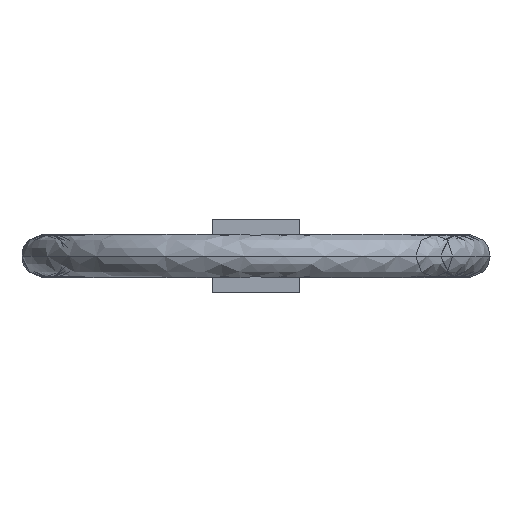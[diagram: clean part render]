
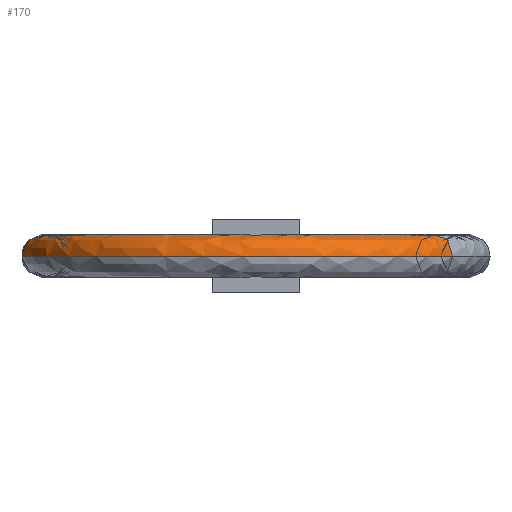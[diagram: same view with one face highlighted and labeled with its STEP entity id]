
A CAD part, left-side view. The second image highlights one B-rep face of the part: STEP entity #170.
In plain terms, the highlighted free-form (B-spline) face has degree [3, 3] with [7, 4] control points.
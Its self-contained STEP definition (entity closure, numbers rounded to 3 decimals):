
#1 = EDGE_CURVE ( 'NONE', #42, #236, #189, .T. ) ;
#14 = ORIENTED_EDGE ( 'NONE', *, *, #1, .T. ) ;
#42 = VERTEX_POINT ( 'NONE', #1085 ) ;
#52 = EDGE_CURVE ( 'NONE', #42, #113, #1239, .T. ) ;
#78 = ORIENTED_EDGE ( 'NONE', *, *, #52, .F. ) ;
#113 = VERTEX_POINT ( 'NONE', #1005 ) ;
#132 = EDGE_CURVE ( 'NONE', #405, #113, #1174, .T. ) ;
#156 = ORIENTED_EDGE ( 'NONE', *, *, #132, .T. ) ;
#170 = ADVANCED_FACE ( 'NONE', ( #766 ), #767, .F. ) ;
#189 = CIRCLE ( 'NONE', #190, 0.75 ) ;
#190 = AXIS2_PLACEMENT_3D ( 'NONE', #191, #192, #193 ) ;
#191 = CARTESIAN_POINT ( 'NONE',  ( -438.06, 6.086, 0. ) ) ;
#192 = DIRECTION ( 'NONE',  ( -0.839, 0.543, 0. ) ) ;
#193 = DIRECTION ( 'NONE',  ( -0.543, -0.839, 0. ) ) ;
#236 = VERTEX_POINT ( 'NONE', #921 ) ;
#405 = VERTEX_POINT ( 'NONE', #1109 ) ;
#490 = EDGE_LOOP ( 'NONE', ( #652, #156, #78, #14 ) ) ;
#542 = CIRCLE ( 'NONE', #543, 8. ) ;
#543 = AXIS2_PLACEMENT_3D ( 'NONE', #544, #545, #546 ) ;
#544 = CARTESIAN_POINT ( 'NONE',  ( -442., 0., 0. ) ) ;
#545 = DIRECTION ( 'NONE',  ( 0., 0., -1. ) ) ;
#546 = DIRECTION ( 'NONE',  ( -0.543, -0.839, 0. ) ) ;
#652 = ORIENTED_EDGE ( 'NONE', *, *, #1424, .F. ) ;
#766 = FACE_OUTER_BOUND ( 'NONE', #490, .T. ) ;
#767 =( BOUNDED_SURFACE ( )  B_SPLINE_SURFACE ( 3, 3, ( 
 ( #768, #769, #770, #771 ),
 ( #773, #774, #775, #776 ),
 ( #777, #778, #779, #780 ),
 ( #781, #782, #783, #784 ),
 ( #785, #786, #787, #788 ),
 ( #792, #793, #794, #795 ),
 ( #796, #797, #798, #799 ) ),
 .UNSPECIFIED., .F., .F., .T. ) 
 B_SPLINE_SURFACE_WITH_KNOTS ( ( 4, 3, 4 ),
 ( 4, 4 ),
 ( 0.021, 0.5, 0.979 ),
 ( 0., 1. ),
 .UNSPECIFIED. ) 
 GEOMETRIC_REPRESENTATION_ITEM ( )  RATIONAL_B_SPLINE_SURFACE ( (
 ( 0.974, 0.325, 0.325, 0.974),
 ( 0.79, 0.263, 0.263, 0.79),
 ( 0.799, 0.266, 0.266, 0.799),
 ( 1., 0.333, 0.333, 1.),
 ( 0.799, 0.266, 0.266, 0.799),
 ( 0.79, 0.263, 0.263, 0.79),
 ( 0.974, 0.325, 0.325, 0.974) ) ) 
 REPRESENTATION_ITEM ( '' )  SURFACE ( )  );
#768 = CARTESIAN_POINT ( 'NONE',  ( -437.652, 6.715, 0. ) ) ;
#769 = CARTESIAN_POINT ( 'NONE',  ( -451.083, 15.411, 0. ) ) ;
#770 = CARTESIAN_POINT ( 'NONE',  ( -459.779, 1.98, 0. ) ) ;
#771 = CARTESIAN_POINT ( 'NONE',  ( -446.348, -6.715, 0. ) ) ;
#773 = CARTESIAN_POINT ( 'NONE',  ( -437.652, 6.715, 0.442 ) ) ;
#774 = CARTESIAN_POINT ( 'NONE',  ( -451.083, 15.411, 0.442 ) ) ;
#775 = CARTESIAN_POINT ( 'NONE',  ( -459.779, 1.98, 0.442 ) ) ;
#776 = CARTESIAN_POINT ( 'NONE',  ( -446.348, -6.715, 0.442 ) ) ;
#777 = CARTESIAN_POINT ( 'NONE',  ( -437.822, 6.453, 0.75 ) ) ;
#778 = CARTESIAN_POINT ( 'NONE',  ( -450.728, 14.808, 0.75 ) ) ;
#779 = CARTESIAN_POINT ( 'NONE',  ( -459.083, 1.903, 0.75 ) ) ;
#780 = CARTESIAN_POINT ( 'NONE',  ( -446.178, -6.453, 0.75 ) ) ;
#781 = CARTESIAN_POINT ( 'NONE',  ( -438.06, 6.086, 0.75 ) ) ;
#782 = CARTESIAN_POINT ( 'NONE',  ( -450.232, 13.966, 0.75 ) ) ;
#783 = CARTESIAN_POINT ( 'NONE',  ( -458.112, 1.794, 0.75 ) ) ;
#784 = CARTESIAN_POINT ( 'NONE',  ( -445.94, -6.086, 0.75 ) ) ;
#785 = CARTESIAN_POINT ( 'NONE',  ( -438.297, 5.719, 0.75 ) ) ;
#786 = CARTESIAN_POINT ( 'NONE',  ( -449.735, 13.124, 0.75 ) ) ;
#787 = CARTESIAN_POINT ( 'NONE',  ( -457.141, 1.686, 0.75 ) ) ;
#788 = CARTESIAN_POINT ( 'NONE',  ( -445.703, -5.719, 0.75 ) ) ;
#792 = CARTESIAN_POINT ( 'NONE',  ( -438.467, 5.456, 0.442 ) ) ;
#793 = CARTESIAN_POINT ( 'NONE',  ( -449.38, 12.521, 0.442 ) ) ;
#794 = CARTESIAN_POINT ( 'NONE',  ( -456.445, 1.609, 0.442 ) ) ;
#795 = CARTESIAN_POINT ( 'NONE',  ( -445.533, -5.456, 0.442 ) ) ;
#796 = CARTESIAN_POINT ( 'NONE',  ( -438.467, 5.456, 0. ) ) ;
#797 = CARTESIAN_POINT ( 'NONE',  ( -449.38, 12.521, 0. ) ) ;
#798 = CARTESIAN_POINT ( 'NONE',  ( -456.445, 1.609, 0. ) ) ;
#799 = CARTESIAN_POINT ( 'NONE',  ( -445.533, -5.456, 0. ) ) ;
#921 = CARTESIAN_POINT ( 'NONE',  ( -437.652, 6.715, 0. ) ) ;
#1005 = CARTESIAN_POINT ( 'NONE',  ( -445.533, -5.456, 0. ) ) ;
#1085 = CARTESIAN_POINT ( 'NONE',  ( -438.467, 5.456, 0. ) ) ;
#1109 = CARTESIAN_POINT ( 'NONE',  ( -446.348, -6.715, 0. ) ) ;
#1174 =( BOUNDED_CURVE ( )  B_SPLINE_CURVE ( 3, ( #1175, #1176, #1177, #1178, #1179, #1180, #1181 ),
 .UNSPECIFIED., .F., .T. ) 
 B_SPLINE_CURVE_WITH_KNOTS ( ( 4, 3, 4 ),
 ( 0.021, 0.5, 0.979 ),
 .UNSPECIFIED. ) 
 CURVE ( )  GEOMETRIC_REPRESENTATION_ITEM ( )  RATIONAL_B_SPLINE_CURVE ( ( 0.974, 0.79, 0.799, 1., 0.799, 0.79, 0.974 ) ) 
 REPRESENTATION_ITEM ( '' )  );
#1175 = CARTESIAN_POINT ( 'NONE',  ( -446.348, -6.715, 0. ) ) ;
#1176 = CARTESIAN_POINT ( 'NONE',  ( -446.348, -6.715, 0.442 ) ) ;
#1177 = CARTESIAN_POINT ( 'NONE',  ( -446.178, -6.453, 0.75 ) ) ;
#1178 = CARTESIAN_POINT ( 'NONE',  ( -445.94, -6.086, 0.75 ) ) ;
#1179 = CARTESIAN_POINT ( 'NONE',  ( -445.703, -5.719, 0.75 ) ) ;
#1180 = CARTESIAN_POINT ( 'NONE',  ( -445.533, -5.456, 0.442 ) ) ;
#1181 = CARTESIAN_POINT ( 'NONE',  ( -445.533, -5.456, 0. ) ) ;
#1239 = CIRCLE ( 'NONE', #1240, 6.5 ) ;
#1240 = AXIS2_PLACEMENT_3D ( 'NONE', #1241, #1242, #1243 ) ;
#1241 = CARTESIAN_POINT ( 'NONE',  ( -442., 0., 0. ) ) ;
#1242 = DIRECTION ( 'NONE',  ( 0., 0., 1. ) ) ;
#1243 = DIRECTION ( 'NONE',  ( -0.543, -0.839, 0. ) ) ;
#1424 = EDGE_CURVE ( 'NONE', #405, #236, #542, .T. ) ;
